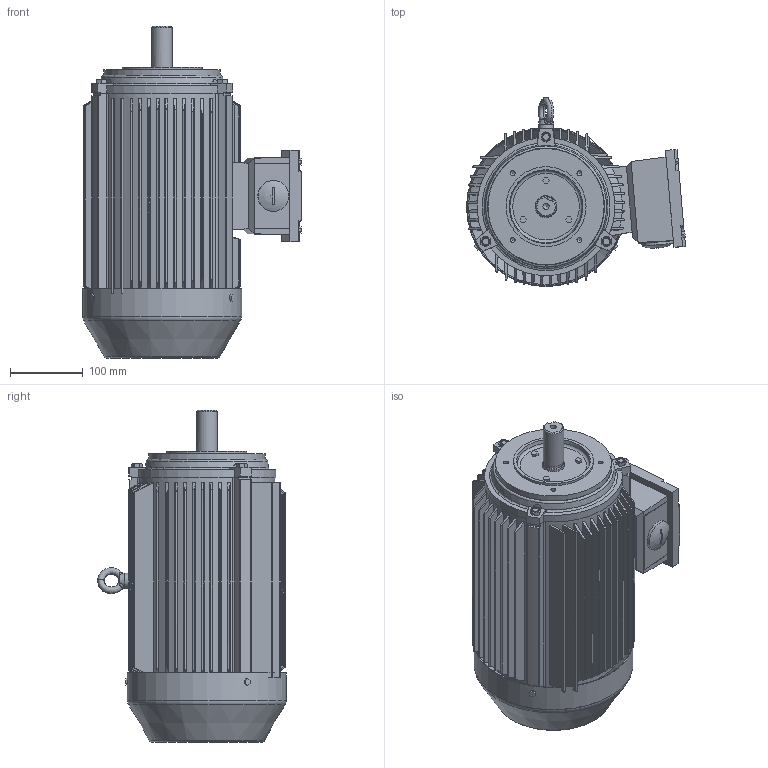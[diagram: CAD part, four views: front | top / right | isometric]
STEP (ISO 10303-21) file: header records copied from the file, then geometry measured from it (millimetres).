
FILE_DESCRIPTION(/* description */ (''),/* implementation_level */ '2;1');
FILE_NAME(/* name */ 'C:/Users/luigi_zhang/Desktop/temp/TE3-112M B14╔╧.step',/* time_stamp */ '2020-07-01T16:08:16+10:00',/* author */ (''),/* organization */ (''),/* preprocessor_version */ 'ST-DEVELOPER v18.1',/* originating_system */ 'Autodesk Translation Framework v9.3.0.1241',/* authorisation */ '');
FILE_SCHEMA (('AUTOMOTIVE_DESIGN { 1 0 10303 214 3 1 1 }'));
Length unit declared in the file: millimetre
Products named in the file (7): (Unsaved); TE3-112M»ú×ù B5V1ÉÏ; YX3-112 ·çÕÖ; GX112 P24 Í¹Ôµ¶Ë¸Ç£
¨B14,B34£©; YE3-112MÖá£¨ÖáÉì£©; eyebolts gb_GB_FASTENER_SCREWS_FRS M8-N; hex head bolts-reduced shank grade b gb_GB_FASTENER_BOLT_HHBB M8X50-N
Assembly tree (8 placements, depth 2):
  (Unsaved)
    TE3-112M»ú×ù B5V1ÉÏ
    YX3-112 ·çÕÖ
    GX112 P24 Í¹Ôµ¶Ë¸Ç£
¨B14,B34£©
    hex head bolts-reduced shank grade b gb_GB_FASTENER_BOLT_HHBB M8X50-N  x3
    YE3-112MÖá£¨ÖáÉì£©
    eyebolts gb_GB_FASTENER_SCREWS_FRS M8-N
Bounding box: 301.47 x 260.1 x 457 mm (x, y, z)
Volume: 4000626.7 mm3; surface area: 1033619.1 mm2
Topology: 8 solids, 8 shells, 1303 faces, 3384 edges, 2239 vertices
Faces by surface type: plane 721, cylinder 435, cone 114, bspline 18, torus 14, sphere 1
Full cylindrical faces by diameter (mm): 6.8 x4, 7.188 x3, 8 x8, 8.5 x1, 9.2 x3, 10 x3, 27.5 x1, 28 x1, 29.5 x1, 30 x2, 38 x1, 42.7 x1, 110 x1, 160 x1, 175 x1, 178 x1, 217 x1, 219 x1
Entity records: 44111 total; most frequent: CARTESIAN_POINT 12467, ORIENTED_EDGE 6628, DIRECTION 6495, EDGE_CURVE 3314, AXIS2_PLACEMENT_3D 2245, VERTEX_POINT 2197, LINE 2005, VECTOR 2005
